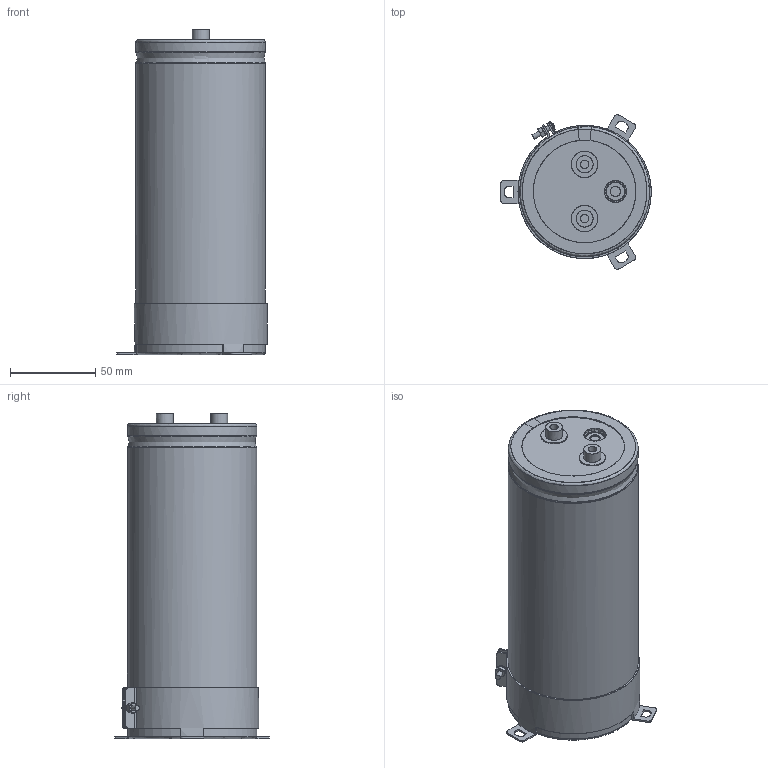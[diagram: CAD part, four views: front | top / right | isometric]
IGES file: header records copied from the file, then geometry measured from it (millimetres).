
Start section: JAMA-IS VERSION  1.0
Bounding box: 88.3 x 90.75 x 191 mm (x, y, z)
Surface area: 162871.3 mm2 (no closed solid volume)
Topology: 0 solids, 0 shells, 259 faces, 4448 edges, 4417 vertices
Faces by surface type: bspline 259
